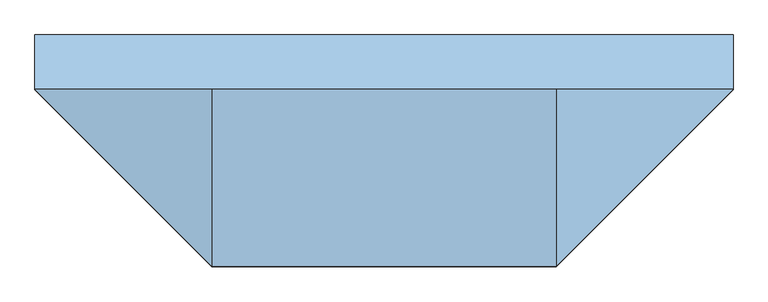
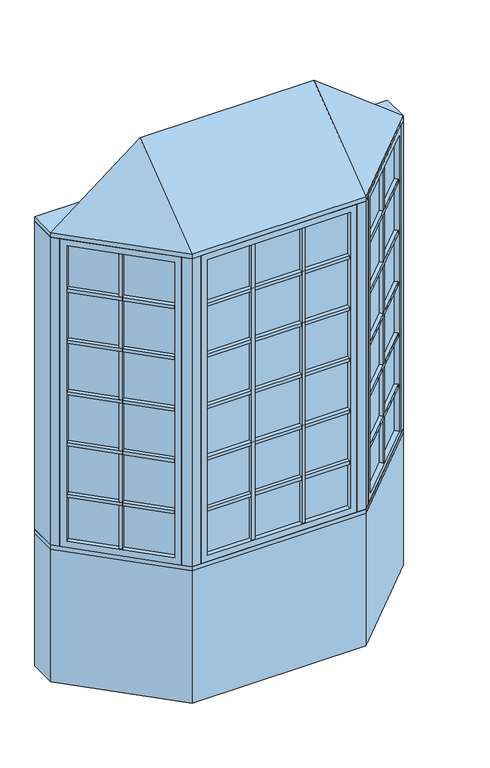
"""IFC4 building model written with IfcOpenShell, lengths in millimetres: window geometry, Pollard_Windows_Tudor Casement Bows and Bays : AML-BAY 45 AFR0618-08-600_GC."""

from ifc_helpers import new_model, si_unit, frame, origin, origin_with_axes, place, context, project, spatial, polyline, outline, extrude, faceted_brep, source, transform, mapped, element, save


def window_1608441a(model_context):
    return source(origin(), model_context, "Body", "SolidModel", [
        extrude(outline(polyline([(539.5114193, -506.9608753), (523.9550701, -491.4045261), (901.616171, -113.7434252), (917.1725202, -129.2997743), (539.5114193, -506.9608753)])), frame((0.0, 0.0, 1690.998), z_axis=(0.0, 0.0, 1.0), x_axis=(1.0, 0.0, 0.0)), (0.0, 0.0, 1.0), 18.0),
        extrude(outline(polyline([(520.3629677, -487.8124236), (504.8066185, -472.2560744), (882.4677194, -94.5949735), (898.0240686, -110.1513227), (520.3629677, -487.8124236)])), frame((0.0, 0.0, 1690.998), z_axis=(0.0, 0.0, 1.0), x_axis=(1.0, 0.0, 0.0)), (0.0, 0.0, 1.0), 18.0),
        extrude(outline(polyline([(539.5114193, -506.9608753), (523.9550701, -491.4045261), (901.616171, -113.7434252), (917.1725202, -129.2997743), (539.5114193, -506.9608753)])), frame((0.0, 0.0, 1090.998), z_axis=(0.0, 0.0, 1.0), x_axis=(1.0, 0.0, 0.0)), (0.0, 0.0, 1.0), 18.0),
        extrude(outline(polyline([(520.3629677, -487.8124236), (504.8066185, -472.2560744), (882.4677194, -94.5949735), (898.0240686, -110.1513227), (520.3629677, -487.8124236)])), frame((0.0, 0.0, 1090.998), z_axis=(0.0, 0.0, 1.0), x_axis=(1.0, 0.0, 0.0)), (0.0, 0.0, 1.0), 18.0),
        extrude(outline(polyline([(539.5114193, -506.9608753), (523.9550701, -491.4045261), (901.616171, -113.7434252), (917.1725202, -129.2997743), (539.5114193, -506.9608753)])), frame((0.0, 0.0, 1390.998), z_axis=(0.0, 0.0, 1.0), x_axis=(1.0, 0.0, 0.0)), (0.0, 0.0, 1.0), 18.0),
        extrude(outline(polyline([(520.3629677, -487.8124236), (504.8066185, -472.2560744), (882.4677194, -94.5949735), (898.0240686, -110.1513227), (520.3629677, -487.8124236)])), frame((0.0, 0.0, 1390.998), z_axis=(0.0, 0.0, 1.0), x_axis=(1.0, 0.0, 0.0)), (0.0, 0.0, 1.0), 18.0),
        extrude(outline(polyline([(539.5114193, -506.9608753), (523.9550701, -491.4045261), (901.616171, -113.7434252), (917.1725202, -129.2997743), (539.5114193, -506.9608753)])), frame((0.0, 0.0, 1990.998), z_axis=(0.0, 0.0, 1.0), x_axis=(1.0, 0.0, 0.0)), (0.0, 0.0, 1.0), 18.0),
        extrude(outline(polyline([(520.3629677, -487.8124236), (504.8066185, -472.2560744), (882.4677194, -94.5949735), (898.0240686, -110.1513227), (520.3629677, -487.8124236)])), frame((0.0, 0.0, 1990.998), z_axis=(0.0, 0.0, 1.0), x_axis=(1.0, 0.0, 0.0)), (0.0, 0.0, 1.0), 18.0),
        extrude(outline(polyline([(539.5114193, -506.9608753), (523.9550701, -491.4045261), (901.616171, -113.7434252), (917.1725202, -129.2997743), (539.5114193, -506.9608753)])), frame((0.0, 0.0, 2290.998), z_axis=(0.0, 0.0, 1.0), x_axis=(1.0, 0.0, 0.0)), (0.0, 0.0, 1.0), 18.0),
        extrude(outline(polyline([(520.3629677, -487.8124236), (504.8066185, -472.2560744), (882.4677194, -94.5949735), (898.0240686, -110.1513227), (520.3629677, -487.8124236)])), frame((0.0, 0.0, 2290.998), z_axis=(0.0, 0.0, 1.0), x_axis=(1.0, 0.0, 0.0)), (0.0, 0.0, 1.0), 18.0),
        extrude(outline(polyline([(719.1495816, -296.2100146), (734.7059308, -311.7663638), (721.9780087, -324.4942858), (706.4216595, -308.9379366), (719.1495816, -296.2100146)])), frame((0.0, 0.0, 835.8628), z_axis=(0.0, 0.0, 1.0), x_axis=(1.0, 0.0, 0.0)), (0.0, 0.0, 1.0), 1728.2704),
        extrude(outline(polyline([(715.5574791, -292.6179121), (702.8295571, -305.3458342), (687.2732079, -289.789485), (700.00113, -277.0615629), (715.5574791, -292.6179121)])), frame((0.0, 0.0, 835.8628), z_axis=(0.0, 0.0, 1.0), x_axis=(1.0, 0.0, 0.0)), (0.0, 0.0, 1.0), 1728.2704),
        extrude(outline(polyline([(910.5964271, -104.763169), (514.974814, -500.3847822), (511.3827115, -496.7926797), (907.0043247, -101.1710666), (910.5964271, -104.763169)])), frame((0.0, 0.0, 823.1628), z_axis=(0.0, 0.0, 1.0), x_axis=(1.0, 0.0, 0.0)), (0.0, 0.0, 1.0), 1753.6704),
        faceted_brep([(901.616171, -113.7434252, 835.8628), (919.5766833, -131.7039374, 835.8628), (919.5766833, -131.7039374, 2564.1332), (901.616171, -113.7434252, 2564.1332), (907.0043247, -101.1710666, 823.1628), (910.5964271, -104.763169, 823.1628), (910.5964271, -104.763169, 2576.8332), (907.0043247, -101.1710666, 2576.8332), (880.0635563, -92.1908105, 835.8628), (898.0240686, -110.1513227, 835.8628), (898.0240686, -110.1513227, 2564.1332), (880.0635563, -92.1908105, 2564.1332), (944.9369265, -106.3436941, 799.998), (905.4237996, -66.8305672, 799.998), (905.4237996, -66.8305672, 2599.998), (944.9369265, -106.3436941, 2599.998), (541.9155823, -509.3650383, 2564.1332), (523.9550701, -491.4045261, 2564.1332), (514.974814, -500.3847822, 2576.8332), (511.3827115, -496.7926797, 2576.8332), (520.3629677, -487.8124236, 2564.1332), (502.4024554, -469.8519114, 2564.1332), (477.0422121, -495.2121547, 2599.998), (516.5553391, -534.7252816, 2599.998), (541.9155823, -509.3650383, 835.8628), (523.9550701, -491.4045261, 835.8628), (514.974814, -500.3847822, 823.1628), (511.3827115, -496.7926797, 823.1628), (520.3629677, -487.8124236, 835.8628), (502.4024554, -469.8519114, 835.8628), (477.0422121, -495.2121547, 799.998), (516.5553391, -534.7252816, 799.998)], [[[0, 1, 2, 3]], [[4, 5, 6, 7]], [[8, 9, 10, 11]], [[12, 13, 14, 15]], [[3, 2, 16, 17]], [[7, 6, 18, 19]], [[11, 10, 20, 21]], [[15, 14, 22, 23]], [[17, 16, 24, 25]], [[19, 18, 26, 27]], [[21, 20, 28, 29]], [[23, 22, 30, 31]], [[25, 24, 1, 0]], [[5, 26, 18, 6], [3, 17, 25, 0]], [[27, 26, 5, 4]], [[7, 19, 27, 4], [9, 28, 20, 10]], [[29, 28, 9, 8]], [[13, 30, 22, 14], [11, 21, 29, 8]], [[31, 30, 13, 12]], [[15, 23, 31, 12], [1, 24, 16, 2]]]),
        extrude(outline(polyline([(148.0118667, -544.6806207), (148.0118667, -566.6806207), (130.0118667, -566.6806207), (130.0118667, -544.6806207), (148.0118667, -544.6806207)])), frame((0.0, 0.0, 835.8628), z_axis=(0.0, 0.0, 1.0), x_axis=(1.0, 0.0, 0.0)), (0.0, 0.0, 1.0), 1728.2704),
        extrude(outline(polyline([(148.0118667, -539.6006207), (130.0118667, -539.6006207), (130.0118667, -517.6006207), (148.0118667, -517.6006207), (148.0118667, -539.6006207)])), frame((0.0, 0.0, 835.8628), z_axis=(0.0, 0.0, 1.0), x_axis=(1.0, 0.0, 0.0)), (0.0, 0.0, 1.0), 1728.2704),
        extrude(outline(polyline([(-130.0118667, -544.6806207), (-130.0118667, -566.6806207), (-148.0118667, -566.6806207), (-148.0118667, -544.6806207), (-130.0118667, -544.6806207)])), frame((0.0, 0.0, 835.8628), z_axis=(0.0, 0.0, 1.0), x_axis=(1.0, 0.0, 0.0)), (0.0, 0.0, 1.0), 1728.2704),
        extrude(outline(polyline([(-130.0118667, -539.6006207), (-148.0118667, -539.6006207), (-148.0118667, -517.6006207), (-130.0118667, -517.6006207), (-130.0118667, -539.6006207)])), frame((0.0, 0.0, 835.8628), z_axis=(0.0, 0.0, 1.0), x_axis=(1.0, 0.0, 0.0)), (0.0, 0.0, 1.0), 1728.2704),
        extrude(outline(polyline([(-395.3352, -566.6806207), (-395.3352, -544.6806207), (395.3352, -544.6806207), (395.3352, -566.6806207), (-395.3352, -566.6806207)])), frame((0.0, 0.0, 1090.998), z_axis=(0.0, 0.0, 1.0), x_axis=(1.0, 0.0, 0.0)), (0.0, 0.0, 1.0), 18.0),
        extrude(outline(polyline([(-395.3352, -539.6006207), (-395.3352, -517.6006207), (395.3352, -517.6006207), (395.3352, -539.6006207), (-395.3352, -539.6006207)])), frame((0.0, 0.0, 1090.998), z_axis=(0.0, 0.0, 1.0), x_axis=(1.0, 0.0, 0.0)), (0.0, 0.0, 1.0), 18.0),
        extrude(outline(polyline([(-395.3352, -566.6806207), (-395.3352, -544.6806207), (395.3352, -544.6806207), (395.3352, -566.6806207), (-395.3352, -566.6806207)])), frame((0.0, 0.0, 1390.998), z_axis=(0.0, 0.0, 1.0), x_axis=(1.0, 0.0, 0.0)), (0.0, 0.0, 1.0), 18.0),
        extrude(outline(polyline([(-395.3352, -539.6006207), (-395.3352, -517.6006207), (395.3352, -517.6006207), (395.3352, -539.6006207), (-395.3352, -539.6006207)])), frame((0.0, 0.0, 1390.998), z_axis=(0.0, 0.0, 1.0), x_axis=(1.0, 0.0, 0.0)), (0.0, 0.0, 1.0), 18.0),
        extrude(outline(polyline([(-395.3352, -566.6806207), (-395.3352, -544.6806207), (395.3352, -544.6806207), (395.3352, -566.6806207), (-395.3352, -566.6806207)])), frame((0.0, 0.0, 1690.998), z_axis=(0.0, 0.0, 1.0), x_axis=(1.0, 0.0, 0.0)), (0.0, 0.0, 1.0), 18.0),
        extrude(outline(polyline([(-395.3352, -539.6006207), (-395.3352, -517.6006207), (395.3352, -517.6006207), (395.3352, -539.6006207), (-395.3352, -539.6006207)])), frame((0.0, 0.0, 1690.998), z_axis=(0.0, 0.0, 1.0), x_axis=(1.0, 0.0, 0.0)), (0.0, 0.0, 1.0), 18.0),
        extrude(outline(polyline([(-395.3352, -566.6806207), (-395.3352, -544.6806207), (395.3352, -544.6806207), (395.3352, -566.6806207), (-395.3352, -566.6806207)])), frame((0.0, 0.0, 1990.998), z_axis=(0.0, 0.0, 1.0), x_axis=(1.0, 0.0, 0.0)), (0.0, 0.0, 1.0), 18.0),
        extrude(outline(polyline([(-395.3352, -539.6006207), (-395.3352, -517.6006207), (395.3352, -517.6006207), (395.3352, -539.6006207), (-395.3352, -539.6006207)])), frame((0.0, 0.0, 1990.998), z_axis=(0.0, 0.0, 1.0), x_axis=(1.0, 0.0, 0.0)), (0.0, 0.0, 1.0), 18.0),
        extrude(outline(polyline([(-917.1725202, -129.2997743), (-901.616171, -113.7434252), (-523.9550701, -491.4045261), (-539.5114193, -506.9608753), (-917.1725202, -129.2997743)])), frame((0.0, 0.0, 1090.998), z_axis=(0.0, 0.0, 1.0), x_axis=(1.0, 0.0, 0.0)), (0.0, 0.0, 1.0), 18.0),
        extrude(outline(polyline([(-898.0240686, -110.1513227), (-882.4677194, -94.5949735), (-504.8066185, -472.2560744), (-520.3629677, -487.8124236), (-898.0240686, -110.1513227)])), frame((0.0, 0.0, 1090.998), z_axis=(0.0, 0.0, 1.0), x_axis=(1.0, 0.0, 0.0)), (0.0, 0.0, 1.0), 18.0),
        extrude(outline(polyline([(-917.1725202, -129.2997743), (-901.616171, -113.7434252), (-523.9550701, -491.4045261), (-539.5114193, -506.9608753), (-917.1725202, -129.2997743)])), frame((0.0, 0.0, 1390.998), z_axis=(0.0, 0.0, 1.0), x_axis=(1.0, 0.0, 0.0)), (0.0, 0.0, 1.0), 18.0),
        extrude(outline(polyline([(-898.0240686, -110.1513227), (-882.4677194, -94.5949735), (-504.8066185, -472.2560744), (-520.3629677, -487.8124236), (-898.0240686, -110.1513227)])), frame((0.0, 0.0, 1390.998), z_axis=(0.0, 0.0, 1.0), x_axis=(1.0, 0.0, 0.0)), (0.0, 0.0, 1.0), 18.0),
        extrude(outline(polyline([(-917.1725202, -129.2997743), (-901.616171, -113.7434252), (-523.9550701, -491.4045261), (-539.5114193, -506.9608753), (-917.1725202, -129.2997743)])), frame((0.0, 0.0, 1690.998), z_axis=(0.0, 0.0, 1.0), x_axis=(1.0, 0.0, 0.0)), (0.0, 0.0, 1.0), 18.0),
        extrude(outline(polyline([(-898.0240686, -110.1513227), (-882.4677194, -94.5949735), (-504.8066185, -472.2560744), (-520.3629677, -487.8124236), (-898.0240686, -110.1513227)])), frame((0.0, 0.0, 1690.998), z_axis=(0.0, 0.0, 1.0), x_axis=(1.0, 0.0, 0.0)), (0.0, 0.0, 1.0), 18.0),
        extrude(outline(polyline([(-917.1725202, -129.2997743), (-901.616171, -113.7434252), (-523.9550701, -491.4045261), (-539.5114193, -506.9608753), (-917.1725202, -129.2997743)])), frame((0.0, 0.0, 1990.998), z_axis=(0.0, 0.0, 1.0), x_axis=(1.0, 0.0, 0.0)), (0.0, 0.0, 1.0), 18.0),
        extrude(outline(polyline([(-898.0240686, -110.1513227), (-882.4677194, -94.5949735), (-504.8066185, -472.2560744), (-520.3629677, -487.8124236), (-898.0240686, -110.1513227)])), frame((0.0, 0.0, 1990.998), z_axis=(0.0, 0.0, 1.0), x_axis=(1.0, 0.0, 0.0)), (0.0, 0.0, 1.0), 18.0),
        extrude(outline(polyline([(-917.1725202, -129.2997743), (-901.616171, -113.7434252), (-523.9550701, -491.4045261), (-539.5114193, -506.9608753), (-917.1725202, -129.2997743)])), frame((0.0, 0.0, 2290.998), z_axis=(0.0, 0.0, 1.0), x_axis=(1.0, 0.0, 0.0)), (0.0, 0.0, 1.0), 18.0),
        extrude(outline(polyline([(-898.0240686, -110.1513227), (-882.4677194, -94.5949735), (-504.8066185, -472.2560744), (-520.3629677, -487.8124236), (-898.0240686, -110.1513227)])), frame((0.0, 0.0, 2290.998), z_axis=(0.0, 0.0, 1.0), x_axis=(1.0, 0.0, 0.0)), (0.0, 0.0, 1.0), 18.0),
        extrude(outline(polyline([(-395.3352, -566.6806207), (-395.3352, -544.6806207), (395.3352, -544.6806207), (395.3352, -566.6806207), (-395.3352, -566.6806207)])), frame((0.0, 0.0, 2290.998), z_axis=(0.0, 0.0, 1.0), x_axis=(1.0, 0.0, 0.0)), (0.0, 0.0, 1.0), 18.0),
        extrude(outline(polyline([(-395.3352, -539.6006207), (-395.3352, -517.6006207), (395.3352, -517.6006207), (395.3352, -539.6006207), (-395.3352, -539.6006207)])), frame((0.0, 0.0, 2290.998), z_axis=(0.0, 0.0, 1.0), x_axis=(1.0, 0.0, 0.0)), (0.0, 0.0, 1.0), 18.0),
        extrude(outline(polyline([(-706.4216595, -308.9379366), (-721.9780087, -324.4942858), (-734.7059308, -311.7663638), (-719.1495816, -296.2100146), (-706.4216595, -308.9379366)])), frame((0.0, 0.0, 835.8628), z_axis=(0.0, 0.0, 1.0), x_axis=(1.0, 0.0, 0.0)), (0.0, 0.0, 1.0), 1728.2704),
        extrude(outline(polyline([(-702.8295571, -305.3458342), (-715.5574791, -292.6179121), (-700.00113, -277.0615629), (-687.2732079, -289.789485), (-702.8295571, -305.3458342)])), frame((0.0, 0.0, 835.8628), z_axis=(0.0, 0.0, 1.0), x_axis=(1.0, 0.0, 0.0)), (0.0, 0.0, 1.0), 1728.2704),
        extrude(outline(polyline([(-514.974814, -500.3847822), (-910.5964271, -104.763169), (-907.0043247, -101.1710666), (-511.3827115, -496.7926797), (-514.974814, -500.3847822)])), frame((0.0, 0.0, 823.1628), z_axis=(0.0, 0.0, 1.0), x_axis=(1.0, 0.0, 0.0)), (0.0, 0.0, 1.0), 1753.6704),
        faceted_brep([(-520.3629677, -487.8124236, 2564.1332), (-502.4024554, -469.8519114, 2564.1332), (-502.4024554, -469.8519114, 835.8628), (-520.3629677, -487.8124236, 835.8628), (-514.974814, -500.3847822, 2576.8332), (-511.3827115, -496.7926797, 2576.8332), (-511.3827115, -496.7926797, 823.1628), (-514.974814, -500.3847822, 823.1628), (-541.9155823, -509.3650383, 2564.1332), (-523.9550701, -491.4045261, 2564.1332), (-523.9550701, -491.4045261, 835.8628), (-541.9155823, -509.3650383, 835.8628), (-477.0422121, -495.2121547, 2599.998), (-516.5553391, -534.7252816, 2599.998), (-516.5553391, -534.7252816, 799.998), (-477.0422121, -495.2121547, 799.998), (-880.0635563, -92.1908105, 835.8628), (-898.0240686, -110.1513227, 835.8628), (-907.0043247, -101.1710666, 823.1628), (-910.5964271, -104.763169, 823.1628), (-901.616171, -113.7434252, 835.8628), (-919.5766833, -131.7039374, 835.8628), (-944.9369265, -106.3436941, 799.998), (-905.4237996, -66.8305672, 799.998), (-880.0635563, -92.1908105, 2564.1332), (-898.0240686, -110.1513227, 2564.1332), (-907.0043247, -101.1710666, 2576.8332), (-910.5964271, -104.763169, 2576.8332), (-901.616171, -113.7434252, 2564.1332), (-919.5766833, -131.7039374, 2564.1332), (-944.9369265, -106.3436941, 2599.998), (-905.4237996, -66.8305672, 2599.998)], [[[0, 1, 2, 3]], [[4, 5, 6, 7]], [[8, 9, 10, 11]], [[12, 13, 14, 15]], [[3, 2, 16, 17]], [[7, 6, 18, 19]], [[11, 10, 20, 21]], [[15, 14, 22, 23]], [[17, 16, 24, 25]], [[19, 18, 26, 27]], [[21, 20, 28, 29]], [[23, 22, 30, 31]], [[15, 23, 31, 12], [1, 24, 16, 2]], [[25, 24, 1, 0]], [[5, 26, 18, 6], [3, 17, 25, 0]], [[27, 26, 5, 4]], [[7, 19, 27, 4], [9, 28, 20, 10]], [[29, 28, 9, 8]], [[13, 30, 22, 14], [11, 21, 29, 8]], [[31, 30, 13, 12]]]),
        extrude(outline(polyline([(408.0352, -544.6806207), (-408.0352, -544.6806207), (-408.0352, -539.6006207), (408.0352, -539.6006207), (408.0352, -544.6806207)])), frame((0.0, 0.0, 823.1628), z_axis=(0.0, 0.0, 1.0), x_axis=(1.0, 0.0, 0.0)), (0.0, 0.0, 1.0), 1753.6704),
        faceted_brep([(395.3352, -544.6806207, 835.8628), (395.3352, -570.0806207, 835.8628), (395.3352, -570.0806207, 2564.1332), (395.3352, -544.6806207, 2564.1332), (408.0352, -539.6006207, 823.1628), (408.0352, -544.6806207, 823.1628), (408.0352, -544.6806207, 2576.8332), (408.0352, -539.6006207, 2576.8332), (395.3352, -514.2006207, 835.8628), (395.3352, -539.6006207, 835.8628), (395.3352, -539.6006207, 2564.1332), (395.3352, -514.2006207, 2564.1332), (431.2, -570.0806207, 799.998), (431.2, -514.2006207, 799.998), (431.2, -514.2006207, 2599.998), (431.2, -570.0806207, 2599.998), (-395.3352, -570.0806207, 2564.1332), (-395.3352, -544.6806207, 2564.1332), (-408.0352, -544.6806207, 2576.8332), (-408.0352, -539.6006207, 2576.8332), (-395.3352, -539.6006207, 2564.1332), (-395.3352, -514.2006207, 2564.1332), (-431.2, -514.2006207, 2599.998), (-431.2, -570.0806207, 2599.998), (-395.3352, -570.0806207, 835.8628), (-395.3352, -544.6806207, 835.8628), (-408.0352, -544.6806207, 823.1628), (-408.0352, -539.6006207, 823.1628), (-395.3352, -539.6006207, 835.8628), (-395.3352, -514.2006207, 835.8628), (-431.2, -514.2006207, 799.998), (-431.2, -570.0806207, 799.998)], [[[0, 1, 2, 3]], [[4, 5, 6, 7]], [[8, 9, 10, 11]], [[12, 13, 14, 15]], [[3, 2, 16, 17]], [[7, 6, 18, 19]], [[11, 10, 20, 21]], [[15, 14, 22, 23]], [[17, 16, 24, 25]], [[19, 18, 26, 27]], [[21, 20, 28, 29]], [[23, 22, 30, 31]], [[15, 23, 31, 12], [1, 24, 16, 2]], [[25, 24, 1, 0]], [[5, 26, 18, 6], [3, 17, 25, 0]], [[27, 26, 5, 4]], [[7, 19, 27, 4], [9, 28, 20, 10]], [[29, 28, 9, 8]], [[13, 30, 22, 14], [11, 21, 29, 8]], [[31, 30, 13, 12]]]),
        faceted_brep([(976.5, -74.7806207, 2625.398), (481.2, -570.0806207, 2625.398), (-481.2, -570.0806207, 2625.398), (-976.5, -74.7806207, 2625.398), (-481.2, -74.7806207, 3006.398), (481.2, -74.7806207, 3006.398)], [[[0, 1, 2, 3]], [[3, 2, 4]], [[2, 1, 5, 4]], [[1, 0, 5]], [[0, 3, 4, 5]]]),
        extrude(outline(polyline([(-976.5, 77.6193793), (976.5, 77.6193793), (976.5, -74.7806207), (481.2, -570.0806207), (-481.2, -570.0806207), (-976.5, -74.7806207), (-976.5, 77.6193793)])), frame((0.0, 0.0, 2599.998), z_axis=(0.0, 0.0, 1.0), x_axis=(1.0, 0.0, 0.0)), (0.0, 0.0, 1.0), 25.4),
        extrude(outline(polyline([(-976.5, -74.7806207), (-976.5, 77.6193793), (-913.3738531, 77.6193793), (-913.3738531, -74.7806207), (-944.9369265, -106.3436941), (-976.5, -74.7806207)])), frame((0.0, 0.0, 799.998), z_axis=(0.0, 0.0, 1.0), x_axis=(1.0, 0.0, 0.0)), (0.0, 0.0, 1.0), 1800.0),
        extrude(outline(polyline([(976.5, 77.6193793), (976.5, -74.7806207), (944.9369265, -106.3436941), (913.3738531, -74.7806207), (913.3738531, 77.6193793), (976.5, 77.6193793)])), frame((0.0, 0.0, 799.998), z_axis=(0.0, 0.0, 1.0), x_axis=(1.0, 0.0, 0.0)), (0.0, 0.0, 1.0), 1800.0),
        extrude(outline(polyline([(481.2, -570.0806207), (431.2, -570.0806207), (431.2, -520.0806207), (460.4893219, -520.0806207), (481.2, -499.3699425), (516.5553391, -534.7252816), (481.2, -570.0806207)])), frame((0.0, 0.0, 799.998), z_axis=(0.0, 0.0, 1.0), x_axis=(1.0, 0.0, 0.0)), (0.0, 0.0, 1.0), 1800.0),
        extrude(outline(polyline([(-481.2, -570.0806207), (-516.5553391, -534.7252816), (-481.2, -499.3699425), (-460.4893219, -520.0806207), (-431.2, -520.0806207), (-431.2, -570.0806207), (-481.2, -570.0806207)])), frame((0.0, 0.0, 799.998), z_axis=(0.0, 0.0, 1.0), x_axis=(1.0, 0.0, 0.0)), (0.0, 0.0, 1.0), 1800.0),
        extrude(outline(polyline([(-481.2, -570.0806207), (-976.5, -74.7806207), (-976.5, 77.6193793), (-913.3738531, 77.6193793), (-418.0738531, -417.6806207), (418.0738531, -417.6806207), (913.3738531, 77.6193793), (976.5, 77.6193793), (976.5, -74.7806207), (481.2, -570.0806207), (-481.2, -570.0806207)])), frame((0.0, 0.0, 774.598), z_axis=(0.0, 0.0, 1.0), x_axis=(1.0, 0.0, 0.0)), (0.0, 0.0, 1.0), 25.4),
        extrude(outline(polyline([(-976.5, -74.7806207), (-976.5, 77.6193793), (-913.3738531, 77.6193793), (-418.0738531, -417.6806207), (418.0738531, -417.6806207), (913.3738531, 77.6193793), (976.5, 77.6193793), (976.5, -74.7806207), (481.2, -570.0806207), (-481.2, -570.0806207), (-976.5, -74.7806207)])), origin_with_axes(), (0.0, 0.0, 1.0), 774.598),
    ])


if __name__ == "__main__":
    model = new_model("IFC4")
    model_context = context("Model", 3, world=origin())
    ifc_project = project(units=[si_unit("LENGTHUNIT", "METRE", prefix="MILLI")], contexts=[model_context])
    site = spatial("IfcSite", under=ifc_project)
    building = spatial("IfcBuilding", under=site)
    placement = place(None, origin())
    window_shape = window_1608441a(model_context)
    element("IfcWindow", 1, ObjectType="Pollard_Windows_Tudor Casement Bows and Bays : AML-BAY 45 AFR0618-08-600_GC", at=placement, inside=building, context=model_context, shape_type="MappedRepresentation", body=[
        mapped(window_shape, transform((0.0, 0.0, 0.0), x_axis=(1.0, 0.0, 0.0), y_axis=(0.0, 1.0, 0.0), z_axis=(0.0, 0.0, 1.0))),
    ])
    save(model, "model.ifc")
